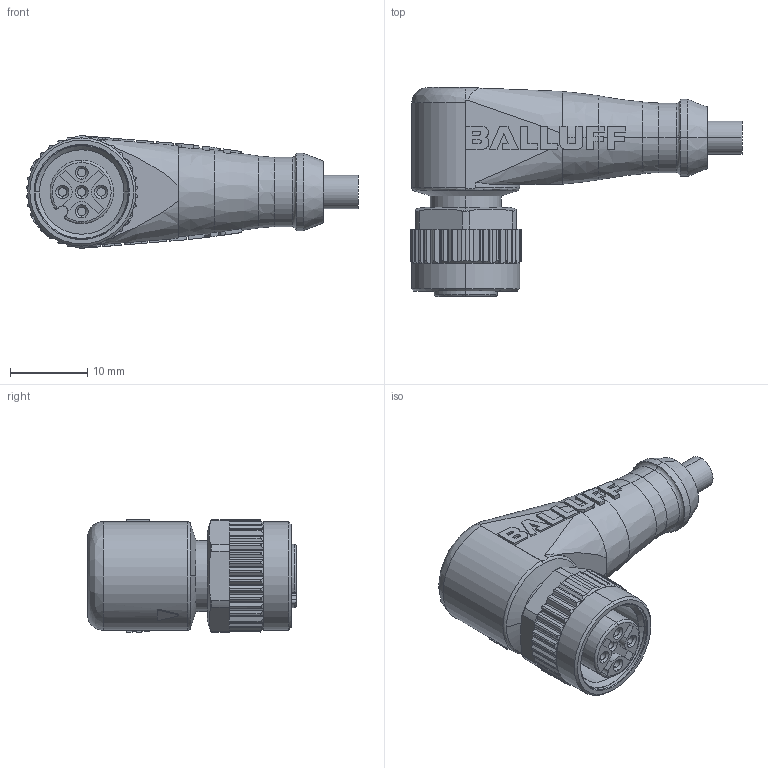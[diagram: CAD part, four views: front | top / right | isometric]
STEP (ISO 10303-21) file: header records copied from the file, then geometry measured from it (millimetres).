
FILE_DESCRIPTION (( 'STEP AP203' ), '1' );
FILE_NAME ('15010001.STEP', '2019-02-15T14:38:41', ( '' ), ( '' ), 'SwSTEP 2.0', 'SolidWorks 2015', '' );
FILE_SCHEMA (( 'CONFIG_CONTROL_DESIGN' ));
Length unit declared in the file: millimetre
Products named in the file (1): 15010001
Bounding box: 42.9 x 27 x 14.56 mm (x, y, z)
Volume: 6011.6 mm3; surface area: 3109.5 mm2
Topology: 1 solids, 1 shells, 522 faces, 1432 edges, 934 vertices
Faces by surface type: plane 277, cylinder 162, cone 59, bspline 24
Entity records: 17353 total; most frequent: CARTESIAN_POINT 4523, ORIENTED_EDGE 2864, DIRECTION 2457, EDGE_CURVE 1432, VERTEX_POINT 934, AXIS2_PLACEMENT_3D 839, LINE 779, VECTOR 779
